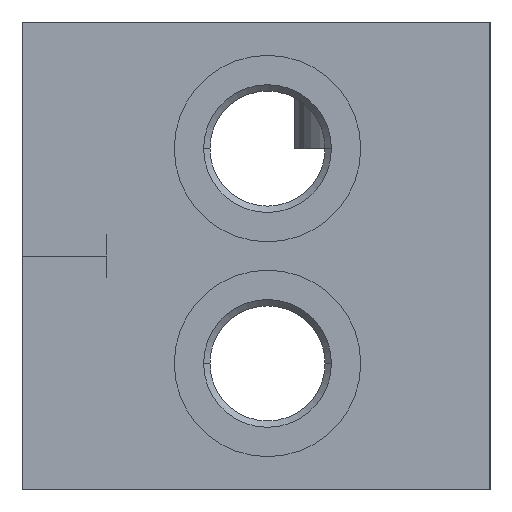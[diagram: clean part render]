
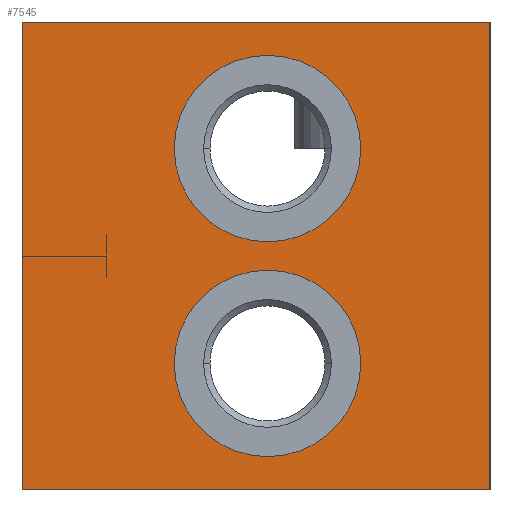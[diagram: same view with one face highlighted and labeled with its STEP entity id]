
A CAD part, left-side view. The second image highlights one B-rep face of the part: STEP entity #7545.
In plain terms, the highlighted planar face has unit normal (-1, 0, 0).
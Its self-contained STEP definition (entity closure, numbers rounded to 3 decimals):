
#25=DIRECTION('',(0.,-1.,0.));
#26=VECTOR('',#25,61.);
#27=CARTESIAN_POINT('',(0.,61.,0.));
#28=LINE('',#27,#26);
#197=DIRECTION('',(0.,0.,-1.));
#198=VECTOR('',#197,61.);
#199=CARTESIAN_POINT('',(0.,0.,0.));
#200=LINE('',#199,#198);
#1435=DIRECTION('',(0.,0.,-1.));
#1436=VECTOR('',#1435,61.);
#1437=CARTESIAN_POINT('',(0.,61.,0.));
#1438=LINE('',#1437,#1436);
#1439=CARTESIAN_POINT('',(0.,29.,-44.5));
#1440=DIRECTION('',(1.,0.,0.));
#1441=DIRECTION('',(0.,-1.,0.));
#1442=AXIS2_PLACEMENT_3D('',#1439,#1440,#1441);
#1444=CARTESIAN_POINT('',(0.,29.,-44.5));
#1445=DIRECTION('',(1.,0.,0.));
#1446=DIRECTION('',(0.,1.,0.));
#1447=AXIS2_PLACEMENT_3D('',#1444,#1445,#1446);
#1449=CARTESIAN_POINT('',(0.,29.,-16.5));
#1450=DIRECTION('',(1.,0.,0.));
#1451=DIRECTION('',(0.,-1.,0.));
#1452=AXIS2_PLACEMENT_3D('',#1449,#1450,#1451);
#1454=CARTESIAN_POINT('',(0.,29.,-16.5));
#1455=DIRECTION('',(1.,0.,0.));
#1456=DIRECTION('',(0.,1.,0.));
#1457=AXIS2_PLACEMENT_3D('',#1454,#1455,#1456);
#1471=DIRECTION('',(0.,-1.,0.));
#1472=VECTOR('',#1471,61.);
#1473=CARTESIAN_POINT('',(0.,61.,-61.));
#1474=LINE('',#1473,#1472);
#5838=CARTESIAN_POINT('',(0.,0.,0.));
#5840=VERTEX_POINT('',#5838);
#5844=CARTESIAN_POINT('',(0.,61.,0.));
#5845=VERTEX_POINT('',#5844);
#5846=CARTESIAN_POINT('',(0.,0.,-61.));
#5848=VERTEX_POINT('',#5846);
#5852=CARTESIAN_POINT('',(0.,61.,-61.));
#5853=VERTEX_POINT('',#5852);
#5866=CARTESIAN_POINT('',(0.,16.85,-44.5));
#5867=CARTESIAN_POINT('',(0.,41.15,-44.5));
#5868=VERTEX_POINT('',#5866);
#5869=VERTEX_POINT('',#5867);
#5882=CARTESIAN_POINT('',(0.,16.85,-16.5));
#5883=CARTESIAN_POINT('',(0.,41.15,-16.5));
#5884=VERTEX_POINT('',#5882);
#5885=VERTEX_POINT('',#5883);
#7521=CARTESIAN_POINT('',(0.,61.,0.));
#7522=DIRECTION('',(-1.,0.,0.));
#7523=DIRECTION('',(0.,-1.,0.));
#7524=AXIS2_PLACEMENT_3D('',#7521,#7522,#7523);
#7525=PLANE('',#7524);
#7526=ORIENTED_EDGE('',*,*,#6965,.T.);
#7527=ORIENTED_EDGE('',*,*,#7080,.T.);
#7529=ORIENTED_EDGE('',*,*,#7528,.F.);
#7530=ORIENTED_EDGE('',*,*,#7159,.F.);
#7531=EDGE_LOOP('',(#7526,#7527,#7529,#7530));
#7532=FACE_OUTER_BOUND('',#7531,.F.);
#7534=ORIENTED_EDGE('',*,*,#7533,.F.);
#7536=ORIENTED_EDGE('',*,*,#7535,.F.);
#7537=EDGE_LOOP('',(#7534,#7536));
#7538=FACE_BOUND('',#7537,.F.);
#7540=ORIENTED_EDGE('',*,*,#7539,.F.);
#7542=ORIENTED_EDGE('',*,*,#7541,.F.);
#7543=EDGE_LOOP('',(#7540,#7542));
#7544=FACE_BOUND('',#7543,.F.);
#1443=CIRCLE('',#1442,12.15);
#1448=CIRCLE('',#1447,12.15);
#1453=CIRCLE('',#1452,12.15);
#1458=CIRCLE('',#1457,12.15);
#6965=EDGE_CURVE('',#5845,#5840,#28,.T.);
#7080=EDGE_CURVE('',#5840,#5848,#200,.T.);
#7159=EDGE_CURVE('',#5845,#5853,#1438,.T.);
#7528=EDGE_CURVE('',#5853,#5848,#1474,.T.);
#7533=EDGE_CURVE('',#5868,#5869,#1443,.T.);
#7535=EDGE_CURVE('',#5869,#5868,#1448,.T.);
#7539=EDGE_CURVE('',#5884,#5885,#1453,.T.);
#7541=EDGE_CURVE('',#5885,#5884,#1458,.T.);
#7545=ADVANCED_FACE('',(#7532,#7538,#7544),#7525,.T.);
